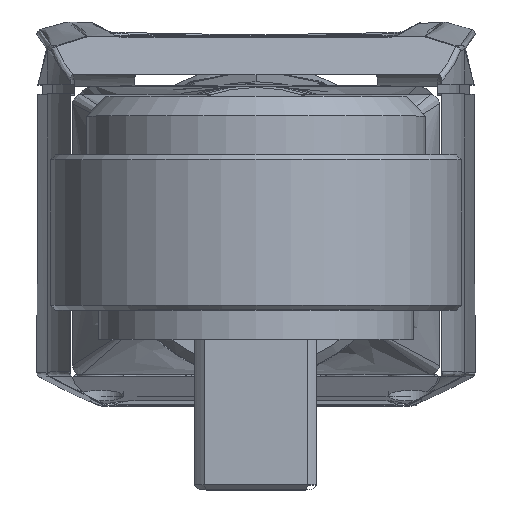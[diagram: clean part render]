
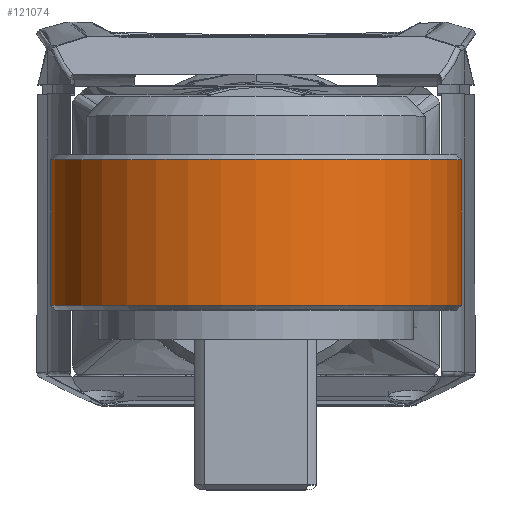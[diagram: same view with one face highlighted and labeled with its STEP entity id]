
A CAD part, top view. The second image highlights one B-rep face of the part: STEP entity #121074.
In plain terms, the highlighted cylindrical face has radius 21.176 mm (diameter 42.351 mm), a partial arc.
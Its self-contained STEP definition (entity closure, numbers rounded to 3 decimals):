
#120112=DIRECTION('',(0.,1.,0.));
#120113=VECTOR('',#120112,15.);
#120114=CARTESIAN_POINT('',(20.25,9.95,
140.309));
#120115=LINE('',#120114,#120113);
#120425=CARTESIAN_POINT('',(0.,9.95,146.5));
#120426=DIRECTION('',(0.,-1.,0.));
#120427=DIRECTION('',(0.956,0.,-0.292));
#120428=AXIS2_PLACEMENT_3D('',#120425,#120426,#120427);
#120430=DIRECTION('',(0.,1.,0.));
#120431=VECTOR('',#120430,15.);
#120432=CARTESIAN_POINT('',(-20.25,9.95,
140.309));
#120433=LINE('',#120432,#120431);
#120434=CARTESIAN_POINT('',(0.,24.95,146.5));
#120435=DIRECTION('',(0.,1.,0.));
#120436=DIRECTION('',(-0.956,0.,-0.292));
#120437=AXIS2_PLACEMENT_3D('',#120434,#120435,#120436);
#120531=CARTESIAN_POINT('',(-20.25,9.95,
140.309));
#120532=VERTEX_POINT('',#120531);
#120537=CARTESIAN_POINT('',(20.25,9.95,140.309));
#120538=VERTEX_POINT('',#120537);
#120547=CARTESIAN_POINT('',(20.25,24.95,
140.309));
#120548=VERTEX_POINT('',#120547);
#120553=CARTESIAN_POINT('',(-20.25,24.95,140.309));
#120554=VERTEX_POINT('',#120553);
#121062=CARTESIAN_POINT('',(0.,9.45,146.5));
#121063=DIRECTION('',(0.,-1.,0.));
#121064=DIRECTION('',(1.,0.,0.));
#121065=AXIS2_PLACEMENT_3D('',#121062,#121063,#121064);
#121066=CYLINDRICAL_SURFACE('',#121065,21.176);
#121068=ORIENTED_EDGE('',*,*,#121067,.T.);
#121069=ORIENTED_EDGE('',*,*,#121030,.T.);
#121070=ORIENTED_EDGE('',*,*,#121056,.T.);
#121071=ORIENTED_EDGE('',*,*,#120673,.F.);
#121072=EDGE_LOOP('',(#121068,#121069,#121070,#121071));
#121073=FACE_OUTER_BOUND('',#121072,.F.);
#120429=CIRCLE('',#120428,21.176);
#120438=CIRCLE('',#120437,21.176);
#120673=EDGE_CURVE('',#120538,#120548,#120115,.T.);
#121030=EDGE_CURVE('',#120532,#120554,#120433,.T.);
#121056=EDGE_CURVE('',#120554,#120548,#120438,.T.);
#121067=EDGE_CURVE('',#120538,#120532,#120429,.T.);
#121074=ADVANCED_FACE('',(#121073),#121066,.T.);
